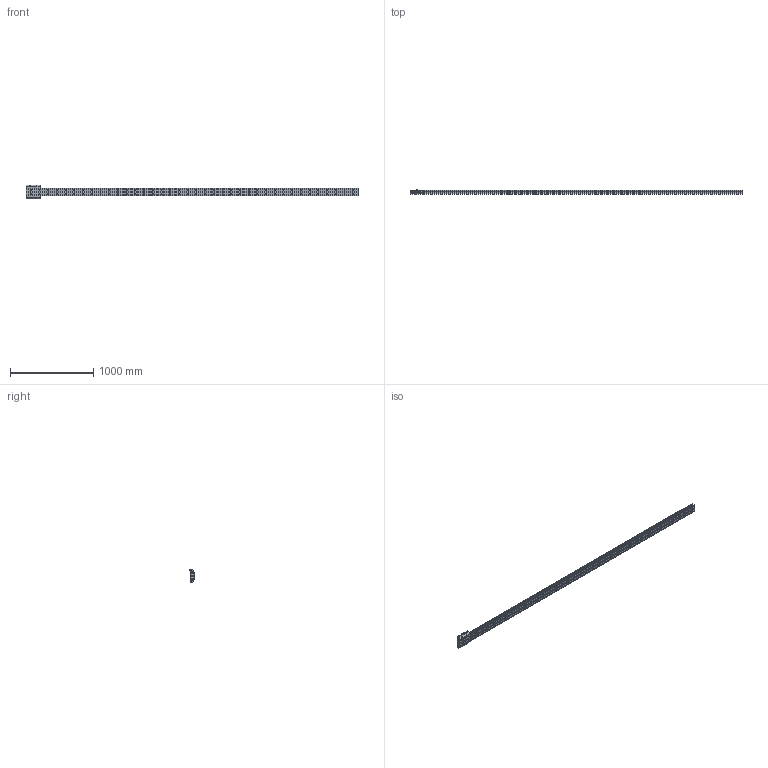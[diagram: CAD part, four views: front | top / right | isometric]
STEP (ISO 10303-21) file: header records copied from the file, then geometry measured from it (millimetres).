
FILE_DESCRIPTION( ( 'STEP AP203' ), '1' );
FILE_NAME( 'p:/temp/worker_8/temp/exporttempdir_5952_196_aQFab/format_0/FDA45 84369A_4000-0-0.stp', '2021-02-04T01:51:19', ( 'License CC BY-ND 4.0' ), ( 'CADENAS' ), ' ', 'PARTsolutions', ' ' );
FILE_SCHEMA( ( 'CONFIG_CONTROL_DESIGN' ) );
Length unit declared in the file: millimetre
Products named in the file (5): FDA45 84369A_4000-0-0; _FD_45R 4000-0-0; _FD_45R Rollenhalter_1; _FD_45R 4000-0-0_2; _FD_45R Rollenhalter_2
Assembly tree (4 placements, depth 2):
  FDA45 84369A_4000-0-0
    _FD_45R 4000-0-0
    _FD_45R Rollenhalter_1
    _FD_45R 4000-0-0_2
    _FD_45R Rollenhalter_2
Bounding box: 4000 x 53.5 x 164.8 mm (x, y, z)
Volume: 14719987.1 mm3; surface area: 1771356.6 mm2
Topology: 4 solids, 8 shells, 671 faces, 1787 edges, 1210 vertices
Faces by surface type: plane 442, cylinder 216, cone 12, torus 1
Full cylindrical faces by diameter (mm): 4.2 x1, 6.647 x8, 10.106 x4, 11 x76, 14 x1, 18 x76
Entity records: 19759 total; most frequent: CARTESIAN_POINT 3406, DIRECTION 3295, ORIENTED_EDGE 3028, EDGE_CURVE 1514, VERTEX_POINT 1122, AXIS2_PLACEMENT_3D 1119, EDGE_LOOP 1086, LINE 1057
